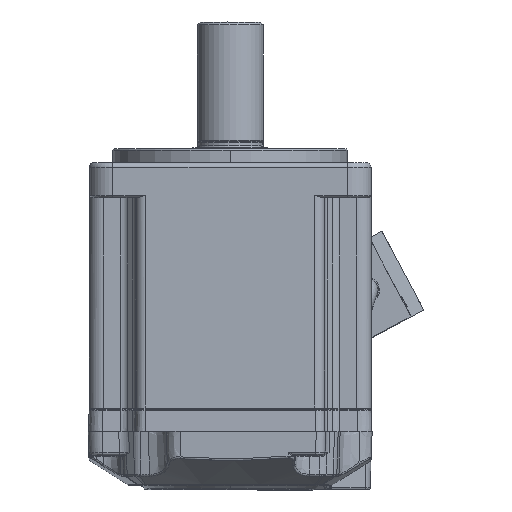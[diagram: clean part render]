
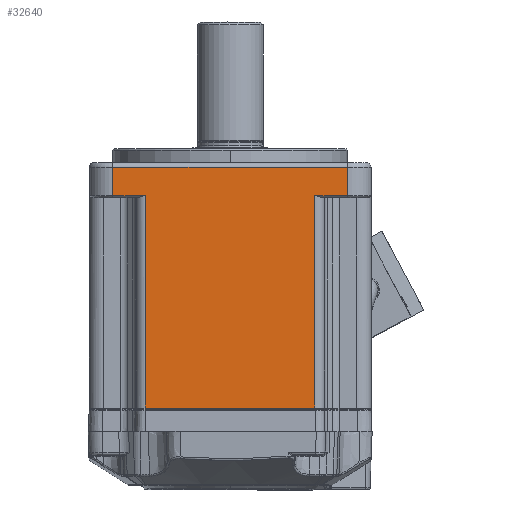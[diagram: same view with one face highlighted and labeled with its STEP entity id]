
A CAD part, top view. The second image highlights one B-rep face of the part: STEP entity #32640.
In plain terms, the highlighted planar face has unit normal (0, 0, 1).
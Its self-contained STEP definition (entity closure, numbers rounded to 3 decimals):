
#3708=DIRECTION('',(1.,0.,0.));
#3709=VECTOR('',#3708,36.069);
#3710=CARTESIAN_POINT('',(-18.035,-52.25,30.));
#3711=LINE('',#3710,#3709);
#4179=DIRECTION('',(0.,1.,0.));
#4180=VECTOR('',#4179,6.);
#4181=CARTESIAN_POINT('',(25.,-7.,30.));
#4182=LINE('',#4181,#4180);
#4251=DIRECTION('',(-1.,0.,0.));
#4252=VECTOR('',#4251,6.965);
#4253=CARTESIAN_POINT('',(25.,-7.,30.));
#4254=LINE('',#4253,#4252);
#4255=DIRECTION('',(-1.,0.,0.));
#4256=VECTOR('',#4255,6.965);
#4257=CARTESIAN_POINT('',(-18.035,-7.,
30.));
#4258=LINE('',#4257,#4256);
#4259=DIRECTION('',(0.,1.,0.));
#4260=VECTOR('',#4259,45.25);
#4261=CARTESIAN_POINT('',(18.035,-52.25,30.));
#4262=LINE('',#4261,#4260);
#4313=DIRECTION('',(0.,-1.,0.));
#4314=VECTOR('',#4313,45.25);
#4315=CARTESIAN_POINT('',(-18.035,-7.,
30.));
#4316=LINE('',#4315,#4314);
#4421=DIRECTION('',(-1.,0.,0.));
#4422=VECTOR('',#4421,50.);
#4423=CARTESIAN_POINT('',(25.,-1.,30.));
#4424=LINE('',#4423,#4422);
#4429=DIRECTION('',(0.,-1.,0.));
#4430=VECTOR('',#4429,6.);
#4431=CARTESIAN_POINT('',(-25.,-1.,30.));
#4432=LINE('',#4431,#4430);
#4450=CARTESIAN_POINT('',(-18.035,-7.,30.));
#24519=CARTESIAN_POINT('',(-25.,-1.,30.));
#24520=VERTEX_POINT('',#24519);
#24521=CARTESIAN_POINT('',(25.,-1.,30.));
#24522=VERTEX_POINT('',#24521);
#24627=CARTESIAN_POINT('',(-18.035,-52.25,30.));
#24628=VERTEX_POINT('',#24627);
#24629=CARTESIAN_POINT('',(18.035,-52.25,30.));
#24630=VERTEX_POINT('',#24629);
#24708=CARTESIAN_POINT('',(-25.,-7.,30.));
#24709=VERTEX_POINT('',#24708);
#24734=VERTEX_POINT('',#4450);
#24735=CARTESIAN_POINT('',(25.,-7.,
30.));
#24736=CARTESIAN_POINT('',(18.035,-7.,
30.));
#24737=VERTEX_POINT('',#24735);
#24738=VERTEX_POINT('',#24736);
#32620=CARTESIAN_POINT('',(-30.,0.,30.));
#32621=DIRECTION('',(0.,0.,1.));
#32622=DIRECTION('',(1.,0.,0.));
#32623=AXIS2_PLACEMENT_3D('',#32620,#32621,#32622);
#32624=PLANE('',#32623);
#32625=ORIENTED_EDGE('',*,*,#32611,.T.);
#32627=ORIENTED_EDGE('',*,*,#32626,.F.);
#32628=ORIENTED_EDGE('',*,*,#32199,.F.);
#32630=ORIENTED_EDGE('',*,*,#32629,.F.);
#32632=ORIENTED_EDGE('',*,*,#32631,.T.);
#32634=ORIENTED_EDGE('',*,*,#32633,.F.);
#32636=ORIENTED_EDGE('',*,*,#32635,.F.);
#32637=ORIENTED_EDGE('',*,*,#32551,.F.);
#32638=EDGE_LOOP('',(#32625,#32627,#32628,#32630,#32632,#32634,#32636,#32637));
#32639=FACE_OUTER_BOUND('',#32638,.F.);
#32640=ADVANCED_FACE('',(#32639),#32624,.T.);
#32199=EDGE_CURVE('',#24628,#24630,#3711,.T.);
#32551=EDGE_CURVE('',#24737,#24522,#4182,.T.);
#32611=EDGE_CURVE('',#24737,#24738,#4254,.T.);
#32626=EDGE_CURVE('',#24630,#24738,#4262,.T.);
#32629=EDGE_CURVE('',#24734,#24628,#4316,.T.);
#32631=EDGE_CURVE('',#24734,#24709,#4258,.T.);
#32633=EDGE_CURVE('',#24520,#24709,#4432,.T.);
#32635=EDGE_CURVE('',#24522,#24520,#4424,.T.);
